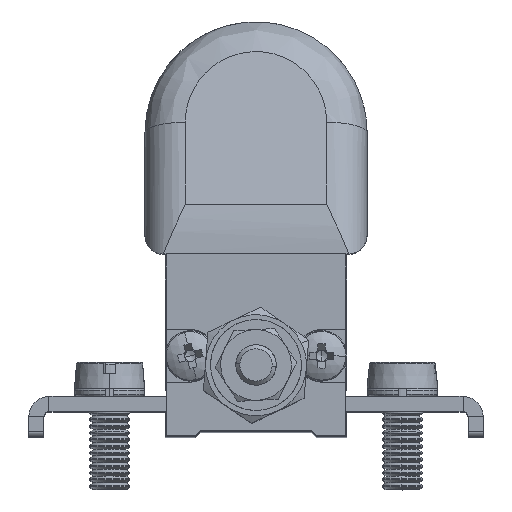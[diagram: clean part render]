
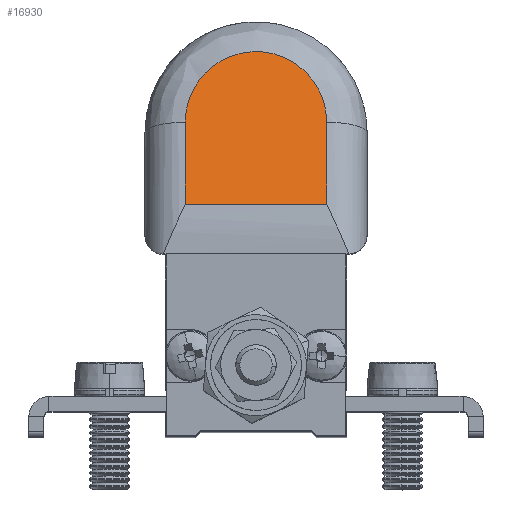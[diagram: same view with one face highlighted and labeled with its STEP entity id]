
A CAD part, top view. The second image highlights one B-rep face of the part: STEP entity #16930.
In plain terms, the highlighted planar face has unit normal (0, 0.259, 0.966) as drawn and (0, 0.259, -0.966) by its records, which use the part's own axes.
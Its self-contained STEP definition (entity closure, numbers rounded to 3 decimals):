
#214 = ORIENTED_EDGE ( 'NONE', *, *, #12416, .T. ) ;
#752 = DIRECTION ( 'NONE',  ( 0., -0.259, 0.966 ) ) ;
#978 = VECTOR ( 'NONE', #9591, 1000. ) ;
#1674 = EDGE_CURVE ( 'NONE', #11154, #8213, #4015, .T. ) ;
#4015 =( BOUNDED_CURVE ( )  B_SPLINE_CURVE ( 3, ( #19694, #10181, #17461, #5045 ),
 .UNSPECIFIED., .F., .F. ) 
 B_SPLINE_CURVE_WITH_KNOTS ( ( 4, 4 ),
 ( 1.571, 4.712 ),
 .UNSPECIFIED. ) 
 CURVE ( )  GEOMETRIC_REPRESENTATION_ITEM ( )  RATIONAL_B_SPLINE_CURVE ( ( 1., 0.333, 0.333, 1. ) ) 
 REPRESENTATION_ITEM ( '' )  );
#4018 = ORIENTED_EDGE ( 'NONE', *, *, #23170, .T. ) ;
#4698 = VECTOR ( 'NONE', #19348, 1000. ) ;
#5045 = CARTESIAN_POINT ( 'NONE',  ( 15.9, 31.035, -1.177 ) ) ;
#6243 = EDGE_LOOP ( 'NONE', ( #21714, #4018, #214, #19824 ) ) ;
#7957 = CARTESIAN_POINT ( 'NONE',  ( 19.901, 45.924, 2.812 ) ) ;
#8213 = VERTEX_POINT ( 'NONE', #10623 ) ;
#9591 = DIRECTION ( 'NONE',  ( 0., 0.966, 0.259 ) ) ;
#10181 = CARTESIAN_POINT ( 'NONE',  ( 1.9, 45.035, 2.574 ) ) ;
#10200 = LINE ( 'NONE', #17982, #19853 ) ;
#10314 = CARTESIAN_POINT ( 'NONE',  ( 15.9, 20.5, -4. ) ) ;
#10623 = CARTESIAN_POINT ( 'NONE',  ( 15.9, 31.035, -1.177 ) ) ;
#11154 = VERTEX_POINT ( 'NONE', #12081 ) ;
#11313 = CARTESIAN_POINT ( 'NONE',  ( 1.9, 30., -1.454 ) ) ;
#11709 = LINE ( 'NONE', #11313, #978 ) ;
#12081 = CARTESIAN_POINT ( 'NONE',  ( 1.9, 31.035, -1.177 ) ) ;
#12416 = EDGE_CURVE ( 'NONE', #17834, #11154, #11709, .T. ) ;
#13405 = DIRECTION ( 'NONE',  ( 0., -0.966, -0.259 ) ) ;
#14162 = CARTESIAN_POINT ( 'NONE',  ( 1.9, 22.916, -3.353 ) ) ;
#14529 = VERTEX_POINT ( 'NONE', #19543 ) ;
#15051 = EDGE_CURVE ( 'NONE', #8213, #14529, #19738, .T. ) ;
#16153 = DIRECTION ( 'NONE',  ( -1., 0., 0. ) ) ;
#16930 = ADVANCED_FACE ( 'NONE', ( #17111 ), #22417, .F. ) ;
#17111 = FACE_OUTER_BOUND ( 'NONE', #6243, .T. ) ;
#17461 = CARTESIAN_POINT ( 'NONE',  ( 15.9, 45.035, 2.574 ) ) ;
#17834 = VERTEX_POINT ( 'NONE', #14162 ) ;
#17982 = CARTESIAN_POINT ( 'NONE',  ( 19.901, 22.916, -3.353 ) ) ;
#19348 = DIRECTION ( 'NONE',  ( 0., -0.966, -0.259 ) ) ;
#19543 = CARTESIAN_POINT ( 'NONE',  ( 15.9, 22.916, -3.353 ) ) ;
#19694 = CARTESIAN_POINT ( 'NONE',  ( 1.9, 31.035, -1.177 ) ) ;
#19738 = LINE ( 'NONE', #10314, #4698 ) ;
#19824 = ORIENTED_EDGE ( 'NONE', *, *, #1674, .T. ) ;
#19841 = AXIS2_PLACEMENT_3D ( 'NONE', #7957, #752, #13405 ) ;
#19853 = VECTOR ( 'NONE', #16153, 1000. ) ;
#21714 = ORIENTED_EDGE ( 'NONE', *, *, #15051, .T. ) ;
#22417 = PLANE ( 'NONE',  #19841 ) ;
#23170 = EDGE_CURVE ( 'NONE', #14529, #17834, #10200, .T. ) ;
